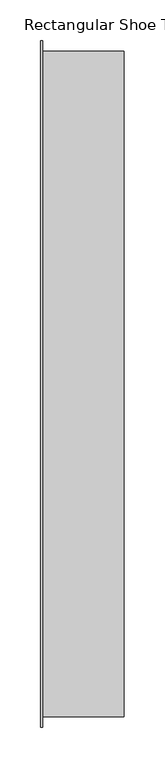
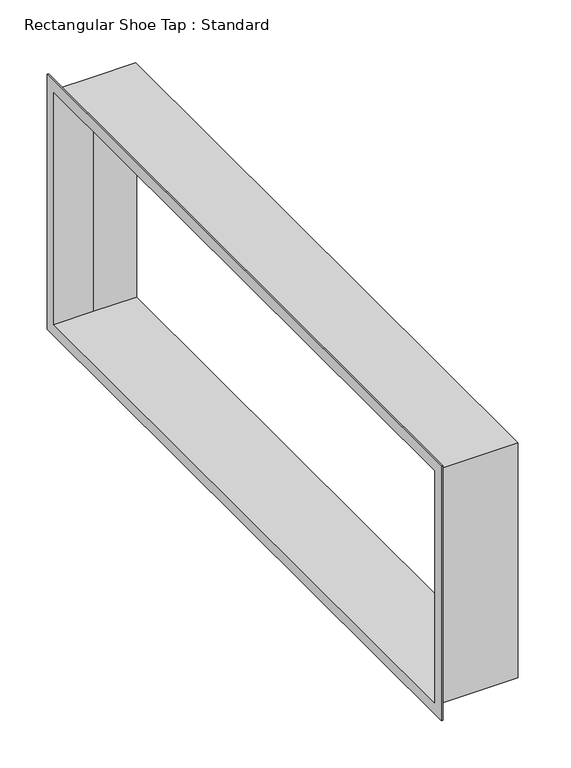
"""IFC4 building model written with IfcOpenShell, lengths in millimetres: duct fitting geometry, Rectangular Shoe Tap : Standard."""

from ifc_helpers import new_model, si_unit, origin, place, context, project, spatial, faceted_brep, source, transform, mapped, element, save


def rectangular_shoe_tap_standard_522a9262(model_context):
    return source(origin(), model_context, "Body", "Brep", [
        faceted_brep([(101.6, 406.4, 152.4), (99.6, 406.4, 152.4), (50.8, 406.4, 152.4), (2.0, 406.4, 152.4), (2.0, -406.4, 152.4), (99.6, -406.4, 152.4), (101.6, -406.4, 152.4), (101.6, -406.4, -152.4), (99.6, -406.4, -152.4), (2.0, -406.4, -152.4), (2.0, 406.4, -152.4), (50.8, 406.4, -152.4), (99.6, 406.4, -152.4), (101.6, 406.4, -152.4), (101.6, 404.4, 150.4), (101.6, 404.4, -150.4), (101.6, -404.4, -150.4), (101.6, -404.4, 150.4), (2.0, 419.1, 165.1), (2.0, -419.1, 165.1), (2.0, -419.1, -165.1), (2.0, 419.1, -165.1), (0.0, 419.1, 165.1), (0.0, 419.1, -165.1), (0.0, -419.1, -165.1), (0.0, -419.1, 165.1), (0.0, -404.4, 150.4), (0.0, -404.4, -150.4), (0.0, 404.4, -150.4), (0.0, 404.4, 150.4), (48.8, 404.4, 150.4), (48.8, 404.4, -150.4)], [[[0, 1, 2, 3, 4, 5, 6]], [[7, 8, 9, 10, 11, 12, 13]], [[2, 1, 0, 13, 12, 11]], [[6, 7, 13, 0], [14, 15, 16, 17]], [[6, 5, 4, 9, 8, 7]], [[18, 19, 20, 21], [3, 10, 9, 4]], [[22, 23, 24, 25], [26, 27, 28, 29]], [[21, 23, 22, 18]], [[20, 24, 23, 21]], [[19, 25, 24, 20]], [[18, 22, 25, 19]], [[14, 17, 26, 29, 30]], [[31, 28, 27, 16, 15]], [[30, 31, 15, 14]], [[16, 27, 26, 17]], [[11, 10, 3, 2]], [[30, 29, 28, 31]]]),
        faceted_brep([(101.6, 404.4, 150.4), (101.6, -404.4, 150.4), (0.0, -404.4, 150.4), (0.0, 404.4, 150.4), (48.8, 404.4, 150.4), (48.8, 404.4, -150.4), (0.0, 404.4, -150.4), (0.0, -404.4, -150.4), (101.6, -404.4, -150.4), (101.6, 404.4, -150.4), (0.0, -406.4, 152.4), (50.0, -406.4, 152.4), (101.6, -406.4, 152.4), (101.6, 406.4, 152.4), (50.8, 406.4, 152.4), (0.0, 406.4, 152.4), (0.0, 406.4, -152.4), (50.8, 406.4, -152.4), (101.6, 406.4, -152.4), (101.6, -406.4, -152.4), (50.0, -406.4, -152.4), (0.0, -406.4, -152.4)], [[[0, 1, 2, 3, 4]], [[5, 6, 7, 8, 9]], [[4, 5, 9, 0]], [[1, 8, 7, 2]], [[10, 11, 12, 13, 14, 15]], [[16, 17, 18, 19, 20, 21]], [[10, 15, 16, 21], [3, 2, 7, 6]], [[19, 18, 13, 12], [0, 9, 8, 1]], [[11, 20, 19, 12]], [[10, 21, 20, 11]], [[4, 3, 6, 5]], [[13, 18, 17, 14]], [[14, 17, 16, 15]]]),
    ])


if __name__ == "__main__":
    model = new_model("IFC4")
    model_context = context("Model", 3, world=origin())
    ifc_project = project(units=[si_unit("LENGTHUNIT", "METRE", prefix="MILLI")], contexts=[model_context])
    site = spatial("IfcSite", under=ifc_project)
    building = spatial("IfcBuilding", under=site)
    placement = place(None, origin())
    rectangular_shoe_tap_standard_shape = rectangular_shoe_tap_standard_522a9262(model_context)
    element("IfcDuctFitting", 1, ObjectType="Rectangular Shoe Tap : Standard", at=placement, inside=building, context=model_context, shape_type="MappedRepresentation", body=[
        mapped(rectangular_shoe_tap_standard_shape, transform((0.0, 0.0, 0.0), x_axis=(1.0, 0.0, 0.0), y_axis=(0.0, 1.0, 0.0), z_axis=(0.0, 0.0, 1.0))),
    ])
    save(model, "model.ifc")
